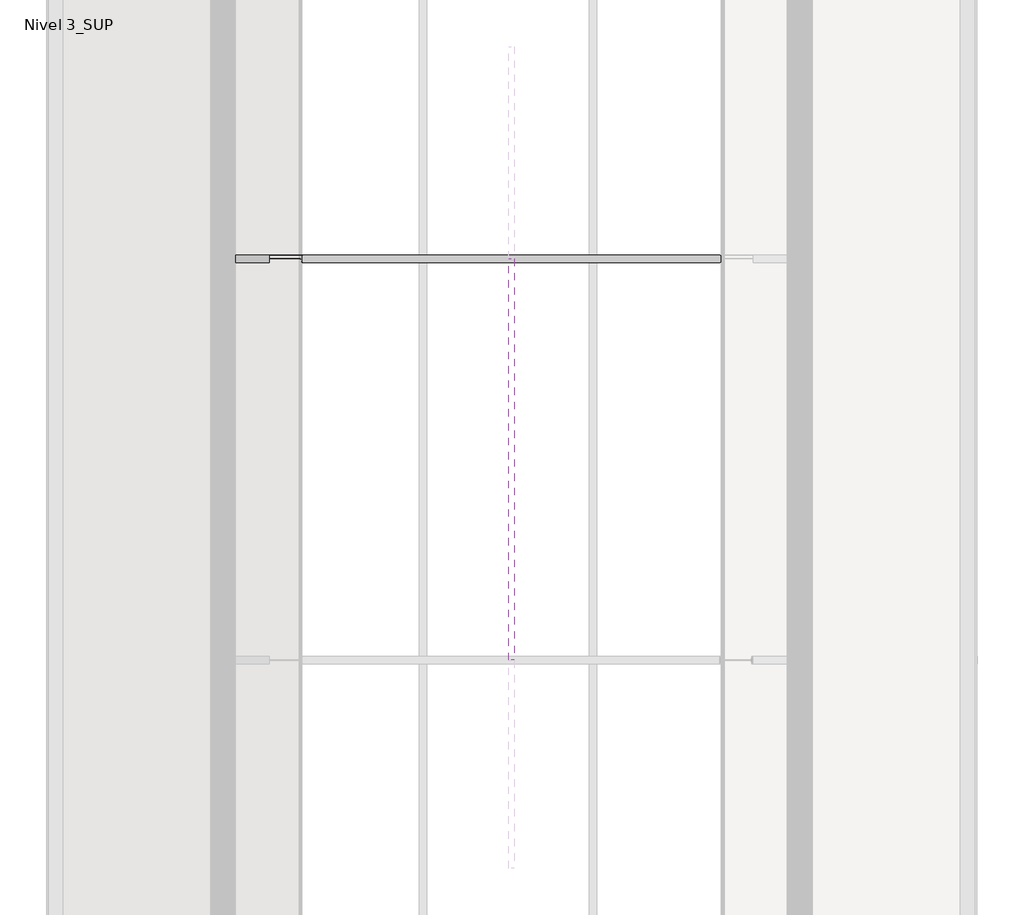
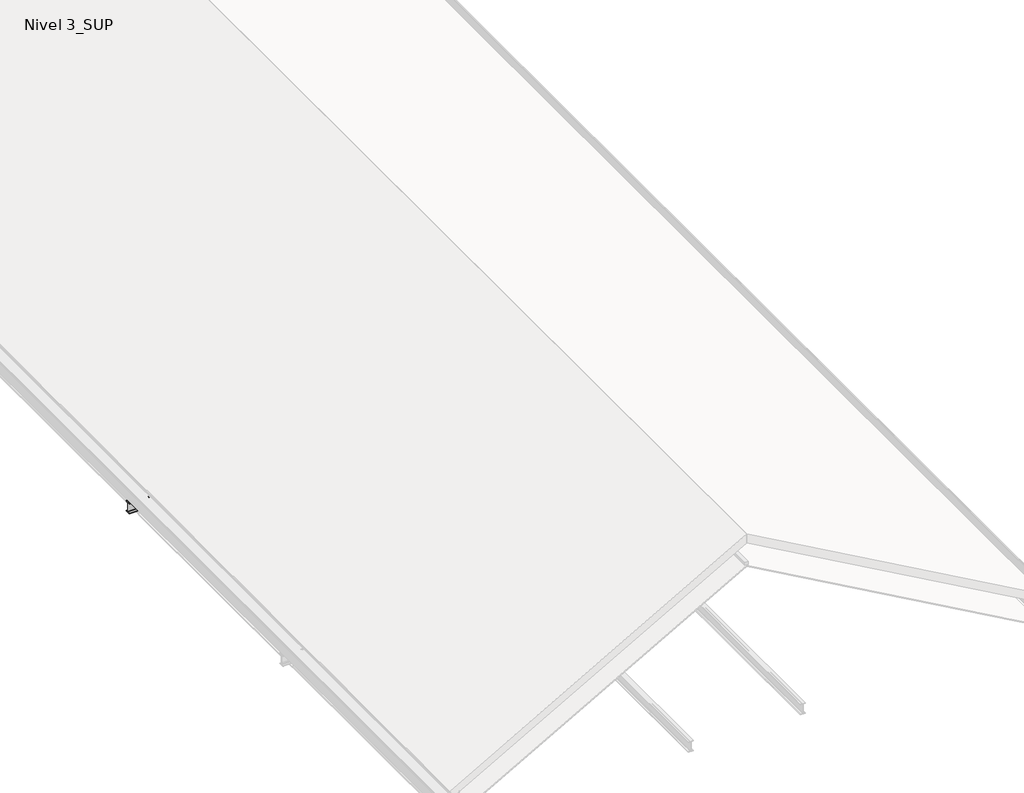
# One storey, part 4 of 10: 3 beams.
"""IFC4 building model written with IfcOpenShell, lengths in millimetres."""

from ifc_helpers import new_model, si_unit, point, frame, frame_2d, origin, place, context, project, spatial, polyline, circle_curve, ellipse_curve, trimmed, segment, composite_curve, outline, extrude, transform, mapped, element, save
from ifc_brep_helpers import plane_surface, cylinder_surface, revolved_surface, advanced_brep
from components import madera_50x50mm_9d4e22ec

model = new_model("IFC4")

# Units and contexts
model_context = context("Model", 3, world=origin())
ifc_project = project(units=[si_unit("LENGTHUNIT", "METRE", prefix="MILLI")], contexts=[model_context])

# Site, building, storey
site = spatial("IfcSite", under=ifc_project)
building = spatial("IfcBuilding", under=site)
storey = spatial("IfcBuildingStorey", under=building, Name="Nivel 3_SUP", Elevation=13230.0)

# Beams
placement = place(None, origin())
element("IfcBeam", 1, ObjectType="IPN - Secciones en I con alas cónicas : IPN 160", at=placement, inside=storey, context=model_context, shape_type="SweptSolid", body=[
    extrude(outline(composite_curve([segment(polyline([(2026.6072273, 13390.0), (2026.6072273, 13386.3950593)]), True, "CONTINUOUS"), segment(trimmed(circle_curve(frame_2d((2022.8072273, 13386.3950593)), 3.8), [point((2026.6072273, 13386.3950593))], [point((2023.3340891, 13382.6317607))], False, "CARTESIAN"), True, "CONTINUOUS"), segment(polyline([(2023.3340891, 13382.6317607), (1998.1837459, 13379.1107126)]), True, "CONTINUOUS"), segment(trimmed(circle_curve(frame_2d((1999.0572273, 13372.8715596)), 6.3), [point((1998.1837459, 13379.1107126))], [point((1992.7572273, 13372.8715596))], True, "CARTESIAN"), True, "CONTINUOUS"), segment(polyline([(1992.7572273, 13372.8715596), (1992.7572273, 13247.1284404)]), True, "CONTINUOUS"), segment(trimmed(circle_curve(frame_2d((1999.0572273, 13247.1284404)), 6.3), [point((1992.7572273, 13247.1284404))], [point((1998.1837459, 13240.8892874))], True, "CARTESIAN"), True, "CONTINUOUS"), segment(polyline([(1998.1837459, 13240.8892874), (2023.3340891, 13237.3682393)]), True, "CONTINUOUS"), segment(trimmed(circle_curve(frame_2d((2022.8072273, 13233.6049407)), 3.8), [point((2023.3340891, 13237.3682393))], [point((2026.6072273, 13233.6049407))], False, "CARTESIAN"), True, "CONTINUOUS"), segment(polyline([(2026.6072273, 13233.6049407), (2026.6072273, 13230.0), (1952.6072273, 13230.0), (1952.6072273, 13233.6049407)]), True, "CONTINUOUS"), segment(trimmed(circle_curve(frame_2d((1956.4072273, 13233.6049407)), 3.8), [point((1952.6072273, 13233.6049407))], [point((1955.8803655, 13237.3682393))], False, "CARTESIAN"), True, "CONTINUOUS"), segment(polyline([(1955.8803655, 13237.3682393), (1981.0307088, 13240.8892874)]), True, "CONTINUOUS"), segment(trimmed(circle_curve(frame_2d((1980.1572273, 13247.1284404)), 6.3), [point((1981.0307088, 13240.8892874))], [point((1986.4572273, 13247.1284404))], True, "CARTESIAN"), True, "CONTINUOUS"), segment(polyline([(1986.4572273, 13247.1284404), (1986.4572273, 13372.8715596)]), True, "CONTINUOUS"), segment(trimmed(circle_curve(frame_2d((1980.1572273, 13372.8715596)), 6.3), [point((1986.4572273, 13372.8715596))], [point((1981.0307088, 13379.1107126))], True, "CARTESIAN"), True, "CONTINUOUS"), segment(polyline([(1981.0307088, 13379.1107126), (1955.8803655, 13382.6317607)]), True, "CONTINUOUS"), segment(trimmed(circle_curve(frame_2d((1956.4072273, 13386.3950593)), 3.8), [point((1955.8803655, 13382.6317607))], [point((1952.6072273, 13386.3950593))], False, "CARTESIAN"), True, "CONTINUOUS"), segment(polyline([(1952.6072273, 13386.3950593), (1952.6072273, 13390.0), (2026.6072273, 13390.0)]), True, "CONTINUOUS")], self_intersect=False)), frame((6033.4837907, 0.0, 0.0), z_axis=(1.0, 0.0, 0.0), x_axis=(0.0, 1.0, 0.0)), (0.0, 0.0, 1.0), 8899.073732),
])
element("IfcBeam", 2, ObjectType="IPN - Secciones en I con alas cónicas : IPN 160", at=placement, inside=storey, context=model_context, shape_type="AdvancedBrep", body=[
    advanced_brep(
    [(6390.9153459, 1952.6072273, 13240.5610738), (6389.1422546, 1952.6072273, 13243.6998227), (6387.2912749, 1955.8803655, 13246.9764506), (6385.5594462, 1981.0307088, 13250.0421559), (6382.4907166, 1986.4572273, 13255.4744601), (6387.2054153, 1986.4572273, 13247.1284404), (6390.7299368, 1981.0307088, 13240.8892874), (6390.9153459, 1978.6863257, 13240.5610738), (6649.0725288, 1952.6072273, 13386.3950593), (6641.7431841, 1952.6072273, 13386.3950593), (6627.4300365, 1955.8803655, 13382.6317607), (6614.038253, 1981.0307088, 13379.1107126), (6590.3085608, 1986.4572273, 13372.8715596), (6391.4963539, 1981.0307088, 13240.8892874), (6402.5409822, 1986.4572273, 13247.1284404), (6625.133057, 1986.4572273, 13372.8715596), (6636.1776853, 1981.0307088, 13379.1107126), (6642.4106895, 1955.8803655, 13382.6317607)],
    [
        (0, 1),
        (1, 2, circle_curve(frame((6389.1422546, 1956.4072273, 13243.6998227), z_axis=(-0.8706797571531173, 0.0, -0.49185034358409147), x_axis=(0.0, 1.0, 0.0)), 3.8)),
        (2, 3),
        (3, 4, circle_curve(frame((6382.4907166, 1980.1572273, 13255.4744601), z_axis=(0.8706797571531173, 0.0, 0.49185034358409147), x_axis=(0.0, 1.0, 0.0)), 6.3)),
        (4, 5),
        (5, 6, ellipse_curve(frame((6387.2054153, 1980.1572273, 13247.1284404), z_axis=(-0.8706797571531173, 0.0, -0.49185034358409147), x_axis=(0.49185034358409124, 0.0, -0.8706797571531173)), 7.2357258, 6.3)),
        (6, 7),
        (7, 0),
        (0, 8),
        (8, 9),
        (9, 1),
        (2, 10),
        (10, 11),
        (11, 3),
        (11, 12, ellipse_curve(frame((6590.3085608, 1980.1572273, 13372.8715596), z_axis=(-0.25428354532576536, 0.0, 0.9671297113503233), x_axis=(0.9671297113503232, 0.0, 0.2542835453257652)), 24.7754922, 6.3)),
        (12, 4),
        (7, 13),
        (13, 14, ellipse_curve(frame((6402.5409822, 1980.1572273, 13247.1284404), z_axis=(0.49185034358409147, 0.0, -0.8706797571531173), x_axis=(0.8706797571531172, 0.0, 0.4918503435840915)), 12.8087742, 6.3)),
        (14, 15),
        (15, 16, ellipse_curve(frame((6625.133057, 1980.1572273, 13372.8715596), z_axis=(0.49185034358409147, 0.0, -0.8706797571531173), x_axis=(0.8706797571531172, 0.0, 0.4918503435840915)), 12.8087742, 6.3)),
        (16, 17),
        (17, 8, ellipse_curve(frame((6649.0725288, 1956.4072273, 13386.3950593), z_axis=(-0.49185034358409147, 0.0, 0.8706797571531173), x_axis=(-0.8706797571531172, 0.0, -0.4918503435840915)), 7.7259273, 3.8)),
        (9, 10, ellipse_curve(frame((6641.7431841, 1956.4072273, 13386.3950593), z_axis=(0.25428354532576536, 0.0, -0.9671297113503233), x_axis=(-0.9671297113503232, 0.0, -0.2542835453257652)), 14.9439477, 3.8)),
        (6, 13),
        (5, 14),
        (17, 10),
        (12, 15),
        (11, 16),
    ],
    [
        plane_surface(frame((6351.5673184, 1989.6072273, 13310.2154543), z_axis=(-0.8706797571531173, 0.0, -0.49185034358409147), x_axis=(-0.49185034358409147, 0.0, 0.8706797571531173))),
        plane_surface(frame((6390.9153459, 1952.6072273, 13240.5610738), z_axis=(0.0, -1.0, 0.0), x_axis=(0.8706797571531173, 0.0, 0.49185034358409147))),
        plane_surface(frame((6386.2427677, 1971.1072273, 13248.8325315), z_axis=(-0.48709992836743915, -0.13864784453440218, 0.862270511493), x_axis=(0.8706797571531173, 0.0, 0.49185034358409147))),
        revolved_surface(polyline([(6611.171018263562, 1986.4572272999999, 13384.656842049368), (6382.4907166, 1986.4572272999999, 13255.4744601)]), (6382.4907166, 1980.1572273, 13255.4744601), (0.8706797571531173, 0.0, 0.49185034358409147)),
        plane_surface(frame((6390.9153459, 2026.6072273, 13240.5610738), z_axis=(0.49185034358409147, 0.0, -0.8706797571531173), x_axis=(0.8706797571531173, 0.0, 0.49185034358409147))),
        cylinder_surface(frame((6389.1422546, 1956.4072273, 13243.6998227), z_axis=(-0.8706797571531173, 0.0, -0.49185034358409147), x_axis=(0.0, 1.0, 0.0)), 3.8),
        plane_surface(frame((6033.4837907, 1955.8803655, 13237.3682393), z_axis=(0.0, 0.13864784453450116, -0.9903417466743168), x_axis=(1.0, 0.0, 0.0))),
        cylinder_surface(frame((10483.0206567, 1980.1572273, 13247.1284404), z_axis=(1.0, 0.0, 0.0), x_axis=(0.0, 1.0, 0.0)), 6.3),
        revolved_surface(polyline([(6627.290448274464, 1960.2072272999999, 13386.3950593), (6656.195919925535, 1960.2072272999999, 13386.3950593)]), (10483.0206567, 1956.4072273, 13386.3950593), (-1.0, 0.0, 0.0)),
        plane_surface(frame((6033.4837907, 1986.4572273, 13247.1284404), z_axis=(0.0, 1.0, 0.0), x_axis=(1.0, 0.0, 0.0))),
        cylinder_surface(frame((10483.0206567, 1980.1572273, 13372.8715596), z_axis=(1.0, 0.0, 0.0), x_axis=(0.0, 1.0, 0.0)), 6.3),
        plane_surface(frame((6033.4837907, 1981.0307088, 13379.1107126), z_axis=(0.0, 0.13864784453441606, 0.9903417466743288), x_axis=(1.0, 0.0, 0.0))),
    ],
    [
        (0, [[1, 2, 3, 4, 5, 6, 7, 8]]),
        (1, [[-1, 9, 10, 11]]),
        (2, [[-3, 12, 13, 14]]),
        (3, [[-4, -14, 15, 16]]),
        (4, [[-8, 17, 18, 19, 20, 21, 22, -9]]),
        (5, [[-2, -11, 23, -12]]),
        (6, [[24, -17, -7]]),
        (7, [[-24, -6, 25, -18]]),
        (8, [[26, -23, -10, -22]]),
        (9, [[-25, -5, -16, 27, -19]]),
        (10, [[-27, -15, 28, -20]]),
        (11, [[-28, -13, -26, -21]]),
    ],
),
    advanced_brep(
    [(6313.9923823, 2026.6072273, 13376.731086), (6312.2192909, 2026.6072273, 13379.8698349), (6323.7703264, 2026.6072273, 13386.3950593), (6331.0996711, 2026.6072273, 13386.3950593), (6317.5751907, 1998.1837459, 13370.3887528), (6315.843362, 2023.3340891, 13373.4544581), (6332.0891402, 2023.3340891, 13382.6317607), (6333.0149153, 1998.1837459, 13379.1107126), (6320.6439202, 1992.7572273, 13364.9564486), (6334.6553508, 1992.7572273, 13372.8715596), (6316.1726436, 1992.7572273, 13372.8715596), (6312.6481221, 1998.1837459, 13379.1107126), (6312.2192909, 2003.6060482, 13379.8698349), (6317.1084871, 2023.3340891, 13382.6317607)],
    [
        (0, 1),
        (1, 2),
        (2, 3),
        (3, 0),
        (4, 5),
        (5, 6),
        (6, 7),
        (7, 4),
        (8, 4, circle_curve(frame((6320.6439202, 1999.0572273, 13364.9564486), z_axis=(-0.8706797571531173, 0.0, -0.49185034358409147), x_axis=(0.0, 1.0, 0.0)), 6.3)),
        (7, 9, ellipse_curve(frame((6334.6553508, 1999.0572273, 13372.8715596), z_axis=(0.9671297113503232, 0.0, 0.25428354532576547), x_axis=(-0.2542835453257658, 0.0, 0.9671297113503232)), 6.514121, 6.3)),
        (9, 8),
        (0, 5, circle_curve(frame((6313.9923823, 2022.8072273, 13376.731086), z_axis=(-0.8706797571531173, 0.0, -0.49185034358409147), x_axis=(0.0, 1.0, 0.0)), 3.8)),
        (8, 10),
        (10, 11, ellipse_curve(frame((6316.1726436, 1999.0572273, 13372.8715596), z_axis=(-0.8706797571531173, 0.0, -0.49185034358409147), x_axis=(0.49185034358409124, 0.0, -0.8706797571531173)), 7.2357258, 6.3)),
        (11, 12),
        (12, 1),
        (12, 13),
        (13, 2, ellipse_curve(frame((6323.7703264, 2022.8072273, 13386.3950593), z_axis=(0.49185034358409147, 0.0, -0.8706797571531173), x_axis=(-0.8706797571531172, 0.0, -0.4918503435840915)), 7.7259273, 3.8)),
        (3, 6, ellipse_curve(frame((6331.0996711, 2022.8072273, 13386.3950593), z_axis=(-0.9671297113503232, 0.0, -0.25428354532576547), x_axis=(0.2542835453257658, 0.0, -0.9671297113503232)), 3.9291524, 3.8)),
        (6, 13),
        (11, 7),
        (10, 9),
    ],
    [
        plane_surface(frame((6312.2192909, 2026.6072273, 13379.8698349), z_axis=(0.0, 1.0, 0.0), x_axis=(0.8706797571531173, 0.0, 0.49185034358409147))),
        plane_surface(frame((6316.8918692, 2008.1072273, 13371.5983772), z_axis=(0.4870999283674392, 0.1386478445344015, -0.8622705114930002), x_axis=(0.8706797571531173, 0.0, 0.49185034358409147))),
        revolved_surface(polyline([(6336.097574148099, 2005.3572273, 13373.686277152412), (6320.6439202, 2005.3572273, 13364.9564486)]), (6320.6439202, 1999.0572273, 13364.9564486), (0.8706797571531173, 0.0, 0.49185034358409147)),
        plane_surface(frame((6351.5673184, 1989.6072273, 13310.2154543), z_axis=(-0.8706797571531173, 0.0, -0.49185034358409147), x_axis=(-0.49185034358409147, 0.0, 0.8706797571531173))),
        plane_surface(frame((6312.2192909, 1952.6072273, 13379.8698349), z_axis=(-0.49185034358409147, 0.0, 0.8706797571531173), x_axis=(0.8706797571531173, 0.0, 0.49185034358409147))),
        cylinder_surface(frame((6313.9923823, 2022.8072273, 13376.731086), z_axis=(-0.8706797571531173, 0.0, -0.49185034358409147), x_axis=(0.0, 1.0, 0.0)), 3.8),
        plane_surface(frame((6033.4837907, 2023.3340891, 13382.6317607), z_axis=(0.0, -0.13864784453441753, 0.9903417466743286), x_axis=(1.0, 0.0, 0.0))),
        cylinder_surface(frame((10483.0206567, 1999.0572273, 13372.8715596), z_axis=(1.0, 0.0, 0.0), x_axis=(0.0, 1.0, 0.0)), 6.3),
        plane_surface(frame((6033.4837907, 1992.7572273, 13372.8715596), z_axis=(0.0, -1.0, 0.0), x_axis=(1.0, 0.0, 0.0))),
        revolved_surface(polyline([(6317.043517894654, 2026.6072273, 13386.3950593), (6332.098789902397, 2026.6072273, 13386.3950593)]), (10483.0206567, 2022.8072273, 13386.3950593), (-1.0, 0.0, 0.0)),
    ],
    [
        (0, [[1, 2, 3, 4]]),
        (1, [[5, 6, 7, 8]]),
        (2, [[9, -8, 10, 11]]),
        (3, [[-1, 12, -5, -9, 13, 14, 15, 16]]),
        (4, [[-16, 17, 18, -2]]),
        (5, [[-12, -4, 19, -6]]),
        (6, [[20, -17, -15, 21, -7]]),
        (7, [[-21, -14, 22, -10]]),
        (8, [[-22, -13, -11]]),
        (9, [[-20, -19, -3, -18]]),
    ],
),
    advanced_brep(
    [(10493.4837907, 2026.6072273, 15737.7418576), (10493.4837907, 2023.3340891, 15733.4196041), (10420.8520301, 2023.3340891, 15692.3896432), (10417.0887314, 2026.6072273, 15694.5859948), (10493.4837907, 1955.8803655, 15733.4196041), (10493.4837907, 1952.6072273, 15737.7418576), (10417.0887314, 1952.6072273, 15694.5859948), (10420.8520301, 1955.8803655, 15692.3896432), (10493.4837907, 2026.6072273, 15741.8822326), (10493.4837907, 1952.6072273, 15741.8822326), (10493.4837907, 1981.0307088, 15729.3755822), (10493.4837907, 1986.4572273, 15722.2097408), (10493.4837907, 1986.4572273, 15698.0), (10493.4837907, 1992.7572273, 15698.0), (10493.4837907, 1992.7572273, 15722.2097408), (10493.4837907, 1998.1837459, 15729.3755822), (10424.3730781, 1998.1837459, 15698.0), (10430.6122311, 1992.7572273, 15698.0), (10450.6273985, 1992.7572273, 15698.0), (10450.6273985, 1986.4572273, 15698.0), (10430.6122311, 1986.4572273, 15698.0), (10424.3730781, 1981.0307088, 15698.0), (10420.8520301, 1955.8803655, 15698.0), (10417.0887314, 1952.6072273, 15698.0), (10415.8029023, 1952.6072273, 15698.0), (10415.8029023, 2026.6072273, 15698.0), (10417.0887314, 2026.6072273, 15698.0), (10420.8520301, 2023.3340891, 15698.0), (10424.3730781, 1998.1837459, 15690.3346748), (10430.6122311, 1992.7572273, 15686.693355), (10424.3730781, 1981.0307088, 15690.3346748), (10430.6122311, 1986.4572273, 15686.693355)],
    [
        (0, 1, ellipse_curve(frame((10493.4837907, 2022.8072273, 15737.7418576), z_axis=(-1.0, 0.0, 0.0), x_axis=(0.0, 0.0, -1.0)), 4.3644061, 3.8)),
        (1, 2),
        (2, 3, ellipse_curve(frame((10417.0887314, 2022.8072273, 15694.5859948), z_axis=(0.504058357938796, 0.0, 0.8636695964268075), x_axis=(-0.8636695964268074, 0.0, 0.5040583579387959)), 4.3998307, 3.8)),
        (3, 0),
        (4, 5, ellipse_curve(frame((10493.4837907, 1956.4072273, 15737.7418576), z_axis=(-1.0, 0.0, 0.0), x_axis=(0.0, 0.0, -1.0)), 4.3644061, 3.8)),
        (5, 6),
        (6, 7, ellipse_curve(frame((10417.0887314, 1956.4072273, 15694.5859948), z_axis=(0.504058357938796, 0.0, 0.8636695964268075), x_axis=(-0.8636695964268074, 0.0, 0.5040583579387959)), 4.3998307, 3.8)),
        (7, 4),
        (8, 9),
        (9, 5),
        (4, 10),
        (10, 11, ellipse_curve(frame((10493.4837907, 1980.1572273, 15722.2097408), z_axis=(-1.0, 0.0, 0.0), x_axis=(0.0, 0.0, 1.0)), 7.2357258, 6.3)),
        (11, 12),
        (12, 13),
        (13, 14),
        (14, 15, ellipse_curve(frame((10493.4837907, 1999.0572273, 15722.2097408), z_axis=(-1.0, 0.0, 0.0), x_axis=(0.0, 0.0, 1.0)), 7.2357258, 6.3)),
        (15, 1),
        (0, 8),
        (16, 17, circle_curve(frame((10430.6122311, 1999.0572273, 15698.0), z_axis=(0.0, 0.0, 1.0), x_axis=(0.0, -1.0, 0.0)), 6.3)),
        (17, 18),
        (18, 13),
        (12, 19),
        (19, 20),
        (20, 21, circle_curve(frame((10430.6122311, 1980.1572273, 15698.0), z_axis=(0.0, 0.0, 1.0), x_axis=(0.0, -1.0, 0.0)), 6.3)),
        (21, 22),
        (22, 23, circle_curve(frame((10417.0887314, 1956.4072273, 15698.0), z_axis=(0.0, 0.0, -1.0), x_axis=(0.0, -1.0, 0.0)), 3.8)),
        (23, 24),
        (24, 25),
        (25, 26),
        (26, 27, circle_curve(frame((10417.0887314, 2022.8072273, 15698.0), z_axis=(0.0, 0.0, -1.0), x_axis=(0.0, -1.0, 0.0)), 3.8)),
        (27, 16),
        (26, 3),
        (2, 27),
        (25, 8),
        (15, 28),
        (28, 2),
        (14, 18),
        (18, 29),
        (29, 28, ellipse_curve(frame((10430.6122311, 1999.0572273, 15686.693355), z_axis=(-0.504058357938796, 0.0, -0.8636695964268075), x_axis=(0.8636695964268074, 0.0, -0.5040583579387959)), 7.2944562, 6.3)),
        (11, 19),
        (10, 30),
        (30, 31, ellipse_curve(frame((10430.6122311, 1980.1572273, 15686.693355), z_axis=(-0.504058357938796, 0.0, -0.8636695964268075), x_axis=(0.8636695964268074, 0.0, -0.5040583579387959)), 7.2944562, 6.3)),
        (31, 19),
        (7, 30),
        (9, 24),
        (23, 6),
        (31, 20),
        (30, 21),
        (7, 22),
        (28, 16),
        (29, 17),
    ],
    [
        cylinder_surface(frame((6313.9923823, 2022.8072273, 13376.731086), z_axis=(-0.8706797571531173, 0.0, -0.49185034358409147), x_axis=(0.0, 1.0, 0.0)), 3.8),
        cylinder_surface(frame((6313.9923823, 1956.4072273, 13376.731086), z_axis=(-0.8706797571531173, 0.0, -0.49185034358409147), x_axis=(0.0, 1.0, 0.0)), 3.8),
        plane_surface(frame((10493.4837907, 1989.6072273, 15741.8822326), z_axis=(1.0, 0.0, 0.0), x_axis=(0.0, -1.0, 0.0))),
        plane_surface(frame((10493.4837907, 1989.6072273, 15698.0), z_axis=(0.0, 0.0, -1.0), x_axis=(0.0, -1.0, 0.0))),
        revolved_surface(polyline([(10417.0887314, 2019.0072273, 15692.36822336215), (10417.0887314, 2019.0072273, 15698.0)]), (10417.0887314, 2022.8072273, 14544.0), (0.0, 0.0, -1.0)),
        plane_surface(frame((6312.2192909, 2026.6072273, 13379.8698349), z_axis=(0.0, 1.0, 0.0), x_axis=(0.8706797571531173, 0.0, 0.49185034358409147))),
        plane_surface(frame((6316.8918692, 2008.1072273, 13371.5983772), z_axis=(0.4870999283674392, 0.1386478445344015, -0.8622705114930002), x_axis=(0.8706797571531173, 0.0, 0.49185034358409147))),
        revolved_surface(polyline([(10496.582447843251, 2005.3572273, 15723.960184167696), (10427.410888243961, 2005.3572273, 15684.884904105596)]), (6320.6439202, 1999.0572273, 13364.9564486), (0.8706797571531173, 0.0, 0.49185034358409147)),
        plane_surface(frame((6320.6439202, 1992.7572273, 13364.9564486), z_axis=(0.0, 1.0, 0.0), x_axis=(0.8706797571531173, 0.0, 0.49185034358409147))),
        plane_surface(frame((6382.4907166, 1986.4572273, 13255.4744601), z_axis=(0.0, -1.0, 0.0), x_axis=(0.8706797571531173, 0.0, 0.49185034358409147))),
        revolved_surface(polyline([(10496.582447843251, 1986.4572272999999, 15723.960184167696), (10427.410888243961, 1986.4572272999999, 15684.884904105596)]), (6320.6439202, 1980.1572273, 13364.9564486), (0.8706797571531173, 0.0, 0.49185034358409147)),
        plane_surface(frame((6316.8918692, 1971.1072273, 13371.5983772), z_axis=(0.48709992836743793, -0.13864784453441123, -0.8622705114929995), x_axis=(0.8706797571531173, 0.0, 0.49185034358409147))),
        plane_surface(frame((6313.9923823, 1952.6072273, 13376.731086), z_axis=(0.0, -1.0, 0.0), x_axis=(0.8706797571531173, 0.0, 0.49185034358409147))),
        plane_surface(frame((6312.2192909, 1952.6072273, 13379.8698349), z_axis=(-0.49185034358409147, 0.0, 0.8706797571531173), x_axis=(0.8706797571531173, 0.0, 0.49185034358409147))),
        plane_surface(frame((10556.3553503, 1986.4572273, 13390.0), z_axis=(0.0, 1.0, 0.0), x_axis=(0.0, 0.0, 1.0))),
        cylinder_surface(frame((10430.6122311, 1980.1572273, 14544.0), z_axis=(0.0, 0.0, 1.0), x_axis=(0.0, -1.0, 0.0)), 6.3),
        plane_surface(frame((10424.3730781, 1981.0307088, 13390.0), z_axis=(-0.9903417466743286, 0.13864784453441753, 0.0), x_axis=(0.0, 0.0, 1.0))),
        revolved_surface(polyline([(10417.0887314, 1952.6072273, 15692.36822336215), (10417.0887314, 1952.6072273, 15698.0)]), (10417.0887314, 1956.4072273, 14544.0), (0.0, 0.0, -1.0)),
        plane_surface(frame((10420.8520301, 2023.3340891, 13390.0), z_axis=(-0.9903417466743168, -0.13864784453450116, 0.0), x_axis=(0.0, 0.0, 1.0))),
        cylinder_surface(frame((10430.6122311, 1999.0572273, 14544.0), z_axis=(0.0, 0.0, 1.0), x_axis=(0.0, -1.0, 0.0)), 6.3),
        plane_surface(frame((10430.6122311, 1992.7572273, 13390.0), z_axis=(0.0, -1.0, 0.0), x_axis=(0.0, 0.0, 1.0))),
    ],
    [
        (0, [[1, 2, 3, 4]]),
        (1, [[5, 6, 7, 8]]),
        (2, [[9, 10, -5, 11, 12, 13, 14, 15, 16, 17, -1, 18]]),
        (3, [[19, 20, 21, -14, 22, 23, 24, 25, 26, 27, 28, 29, 30, 31]]),
        (4, [[-30, 32, -3, 33]]),
        (5, [[-18, -4, -32, -29, 34]]),
        (6, [[-17, 35, 36, -2]]),
        (7, [[-16, 37, 38, 39, -35]]),
        (8, [[-37, -15, -21]]),
        (9, [[-13, 40, -22]]),
        (10, [[-12, 41, 42, 43, -40]]),
        (11, [[-11, -8, 44, -41]]),
        (12, [[-10, 45, -27, 46, -6]]),
        (13, [[-9, -34, -28, -45]]),
        (14, [[-23, -43, 47]]),
        (15, [[-24, -47, -42, 48]]),
        (16, [[-25, -48, -44, 49]]),
        (17, [[-26, -49, -7, -46]]),
        (18, [[-31, -33, -36, 50]]),
        (19, [[-19, -50, -39, 51]]),
        (20, [[-20, -51, -38]]),
    ],
),
    advanced_brep(
    [(10413.4837907, 1992.7572273, 15677.0174331), (10413.4837907, 1992.7572273, 15532.5979515), (6620.6295447, 1992.7572273, 13390.0), (6364.9763347, 1992.7572273, 13390.0), (10413.4837907, 1986.4572273, 15532.5979515), (10413.4837907, 1986.4572273, 15677.0174331), (6364.9763347, 1986.4572273, 13390.0), (6620.6295447, 1986.4572273, 13390.0), (10413.4837907, 2023.3340891, 15521.3880882), (10413.4837907, 2026.6072273, 15517.0658347), (6648.1246962, 2026.6072273, 13390.0), (6640.4733878, 2023.3340891, 13390.0), (10413.4837907, 1952.6072273, 15517.0658347), (10413.4837907, 1955.8803655, 15521.3880882), (6640.4733878, 1955.8803655, 13390.0), (6648.1246962, 1952.6072273, 13390.0), (10413.4837907, 2026.6072273, 15696.6899249), (10413.4837907, 2026.6072273, 15692.5495499), (6337.4811832, 2026.6072273, 13390.0), (6330.1518385, 2026.6072273, 13390.0), (10413.4837907, 2023.3340891, 15688.2272964), (10413.4837907, 1998.1837459, 15684.1832745), (6352.2912708, 1998.1837459, 13390.0), (6345.1324915, 2023.3340891, 13390.0), (10413.4837907, 1998.1837459, 15525.4321101), (6633.3146085, 1998.1837459, 13390.0), (10413.4837907, 2026.6072273, 15512.9254597), (6655.4540409, 2026.6072273, 13390.0), (10413.4837907, 1952.6072273, 15512.9254597), (6655.4540409, 1952.6072273, 13390.0), (10413.4837907, 1981.0307088, 15525.4321101), (6633.3146085, 1981.0307088, 13390.0), (10413.4837907, 1981.0307088, 15684.1832745), (6352.2912708, 1981.0307088, 13390.0), (10413.4837907, 1955.8803655, 15688.2272964), (6345.1324915, 1955.8803655, 13390.0), (10413.4837907, 1952.6072273, 15692.5495499), (10413.4837907, 1952.6072273, 15696.6899249), (6330.1518385, 1952.6072273, 13390.0), (6337.4811832, 1952.6072273, 13390.0)],
    [
        (0, 1),
        (1, 2),
        (2, 3),
        (3, 0),
        (4, 5),
        (5, 6),
        (6, 7),
        (7, 4),
        (8, 9, ellipse_curve(frame((10413.4837907, 2022.8072273, 15517.0658347), z_axis=(-1.0, 0.0, 0.0), x_axis=(0.0, 0.0, -0.9999999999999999)), 4.3644061, 3.8)),
        (9, 10),
        (10, 11, ellipse_curve(frame((6648.1246962, 2022.8072273, 13390.0), z_axis=(0.0, 0.0, 1.0), x_axis=(-1.0, 0.0, 0.0)), 7.7259273, 3.8)),
        (11, 8),
        (12, 13, ellipse_curve(frame((10413.4837907, 1956.4072273, 15517.0658347), z_axis=(-1.0, 0.0, 0.0), x_axis=(0.0, 0.0, -0.9999999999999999)), 4.3644061, 3.8)),
        (13, 14),
        (14, 15, ellipse_curve(frame((6648.1246962, 1956.4072273, 13390.0), z_axis=(0.0, 0.0, 1.0), x_axis=(-1.0, 0.0, 0.0)), 7.7259273, 3.8)),
        (15, 12),
        (16, 17),
        (17, 18),
        (18, 19),
        (19, 16),
        (20, 21),
        (21, 22),
        (22, 23),
        (23, 20),
        (21, 0, ellipse_curve(frame((10413.4837907, 1999.0572273, 15677.0174331), z_axis=(1.0, 0.0, 0.0), x_axis=(0.0, 0.0, 0.9999999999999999)), 7.2357258, 6.3)),
        (3, 22, ellipse_curve(frame((6364.9763347, 1999.0572273, 13390.0), z_axis=(0.0, 0.0, -1.0), x_axis=(1.0, 0.0, 0.0)), 12.8087742, 6.3)),
        (1, 24, ellipse_curve(frame((10413.4837907, 1999.0572273, 15532.5979515), z_axis=(1.0, 0.0, 0.0), x_axis=(0.0, 0.0, 0.9999999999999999)), 7.2357258, 6.3)),
        (24, 25),
        (25, 2, ellipse_curve(frame((6620.6295447, 1999.0572273, 13390.0), z_axis=(0.0, 0.0, -1.0), x_axis=(1.0, 0.0, 0.0)), 12.8087742, 6.3)),
        (24, 8),
        (11, 25),
        (9, 26),
        (26, 27),
        (27, 10),
        (26, 28),
        (28, 29),
        (29, 27),
        (28, 12),
        (15, 29),
        (13, 30),
        (30, 31),
        (31, 14),
        (30, 4, ellipse_curve(frame((10413.4837907, 1980.1572273, 15532.5979515), z_axis=(1.0, 0.0, 0.0), x_axis=(0.0, 0.0, 0.9999999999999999)), 7.2357258, 6.3)),
        (7, 31, ellipse_curve(frame((6620.6295447, 1980.1572273, 13390.0), z_axis=(0.0, 0.0, -1.0), x_axis=(1.0, 0.0, 0.0)), 12.8087742, 6.3)),
        (5, 32, ellipse_curve(frame((10413.4837907, 1980.1572273, 15677.0174331), z_axis=(1.0, 0.0, 0.0), x_axis=(0.0, 0.0, 0.9999999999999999)), 7.2357258, 6.3)),
        (32, 33),
        (33, 6, ellipse_curve(frame((6364.9763347, 1980.1572273, 13390.0), z_axis=(0.0, 0.0, -1.0), x_axis=(1.0, 0.0, 0.0)), 12.8087742, 6.3)),
        (32, 34),
        (34, 35),
        (35, 33),
        (36, 37),
        (37, 38),
        (38, 39),
        (39, 36),
        (37, 16),
        (19, 38),
        (36, 34, ellipse_curve(frame((10413.4837907, 1956.4072273, 15692.5495499), z_axis=(1.0, 0.0, 0.0), x_axis=(0.0, 0.0, -0.9999999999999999)), 4.3644061, 3.8)),
        (20, 17, ellipse_curve(frame((10413.4837907, 2022.8072273, 15692.5495499), z_axis=(1.0, 0.0, 0.0), x_axis=(0.0, 0.0, -0.9999999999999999)), 4.3644061, 3.8)),
        (18, 23, ellipse_curve(frame((6337.4811832, 2022.8072273, 13390.0), z_axis=(0.0, 0.0, -1.0), x_axis=(-1.0, 0.0, 0.0)), 7.7259273, 3.8)),
        (35, 39, ellipse_curve(frame((6337.4811832, 1956.4072273, 13390.0), z_axis=(0.0, 0.0, -1.0), x_axis=(-1.0, 0.0, 0.0)), 7.7259273, 3.8)),
    ],
    [
        plane_surface(frame((6320.6439202, 1992.7572273, 13364.9564486), z_axis=(0.0, 1.0, 0.0), x_axis=(0.8706797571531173, 0.0, 0.49185034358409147))),
        plane_surface(frame((6382.4907166, 1986.4572273, 13255.4744601), z_axis=(0.0, -1.0, 0.0), x_axis=(0.8706797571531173, 0.0, 0.49185034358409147))),
        cylinder_surface(frame((6389.1422546, 2022.8072273, 13243.6998227), z_axis=(-0.8706797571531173, 0.0, -0.49185034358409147), x_axis=(0.0, 1.0, 0.0)), 3.8),
        cylinder_surface(frame((6389.1422546, 1956.4072273, 13243.6998227), z_axis=(-0.8706797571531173, 0.0, -0.49185034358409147), x_axis=(0.0, 1.0, 0.0)), 3.8),
        plane_surface(frame((6312.2192909, 2026.6072273, 13379.8698349), z_axis=(0.0, 1.0, 0.0), x_axis=(0.8706797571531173, 0.0, 0.49185034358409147))),
        plane_surface(frame((6316.8918692, 2008.1072273, 13371.5983772), z_axis=(0.4870999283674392, 0.1386478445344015, -0.8622705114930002), x_axis=(0.8706797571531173, 0.0, 0.49185034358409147))),
        revolved_surface(polyline([(10416.582447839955, 2005.3572273, 15678.767876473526), (6355.266217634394, 2005.3572273, 13384.514717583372)]), (6320.6439202, 1999.0572273, 13364.9564486), (0.8706797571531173, 0.0, 0.49185034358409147)),
        revolved_surface(polyline([(10416.582447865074, 2005.3572273, 15534.348394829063), (6610.919427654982, 2005.3572273, 13384.514717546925)]), (6382.4907166, 1999.0572273, 13255.4744601), (0.8706797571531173, 0.0, 0.49185034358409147)),
        plane_surface(frame((6386.2427677, 2008.1072273, 13248.8325315), z_axis=(-0.48709992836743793, 0.1386478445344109, 0.8622705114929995), x_axis=(0.8706797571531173, 0.0, 0.49185034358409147))),
        plane_surface(frame((6389.1422546, 2026.6072273, 13243.6998227), z_axis=(0.0, 1.0, 0.0), x_axis=(0.8706797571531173, 0.0, 0.49185034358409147))),
        plane_surface(frame((6390.9153459, 2026.6072273, 13240.5610738), z_axis=(0.49185034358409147, 0.0, -0.8706797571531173), x_axis=(0.8706797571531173, 0.0, 0.49185034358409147))),
        plane_surface(frame((6390.9153459, 1952.6072273, 13240.5610738), z_axis=(0.0, -1.0, 0.0), x_axis=(0.8706797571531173, 0.0, 0.49185034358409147))),
        plane_surface(frame((6386.2427677, 1971.1072273, 13248.8325315), z_axis=(-0.48709992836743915, -0.13864784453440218, 0.862270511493), x_axis=(0.8706797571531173, 0.0, 0.49185034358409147))),
        revolved_surface(polyline([(10416.582447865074, 1986.4572272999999, 15534.348394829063), (6610.919427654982, 1986.4572272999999, 13384.514717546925)]), (6382.4907166, 1980.1572273, 13255.4744601), (0.8706797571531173, 0.0, 0.49185034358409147)),
        revolved_surface(polyline([(10416.582447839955, 1986.4572272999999, 15678.767876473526), (6355.266217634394, 1986.4572272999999, 13384.514717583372)]), (6320.6439202, 1980.1572273, 13364.9564486), (0.8706797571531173, 0.0, 0.49185034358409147)),
        plane_surface(frame((6316.8918692, 1971.1072273, 13371.5983772), z_axis=(0.48709992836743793, -0.13864784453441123, -0.8622705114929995), x_axis=(0.8706797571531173, 0.0, 0.49185034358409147))),
        plane_surface(frame((6313.9923823, 1952.6072273, 13376.731086), z_axis=(0.0, -1.0, 0.0), x_axis=(0.8706797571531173, 0.0, 0.49185034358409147))),
        plane_surface(frame((6312.2192909, 1952.6072273, 13379.8698349), z_axis=(-0.49185034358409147, 0.0, 0.8706797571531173), x_axis=(0.8706797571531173, 0.0, 0.49185034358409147))),
        plane_surface(frame((10413.4837907, 1952.6072273, 13390.0), z_axis=(1.0, 0.0, 0.0), x_axis=(0.0, 0.0, 1.0))),
        plane_surface(frame((6033.4837907, 1952.6072273, 13390.0), z_axis=(0.0, 0.0, -1.0), x_axis=(1.0, 0.0, 0.0))),
        cylinder_surface(frame((6313.9923823, 2022.8072273, 13376.731086), z_axis=(-0.8706797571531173, 0.0, -0.49185034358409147), x_axis=(0.0, 1.0, 0.0)), 3.8),
        cylinder_surface(frame((6313.9923823, 1956.4072273, 13376.731086), z_axis=(-0.8706797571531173, 0.0, -0.49185034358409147), x_axis=(0.0, 1.0, 0.0)), 3.8),
    ],
    [
        (0, [[1, 2, 3, 4]]),
        (1, [[5, 6, 7, 8]]),
        (2, [[9, 10, 11, 12]]),
        (3, [[13, 14, 15, 16]]),
        (4, [[17, 18, 19, 20]]),
        (5, [[21, 22, 23, 24]]),
        (6, [[25, -4, 26, -22]]),
        (7, [[27, 28, 29, -2]]),
        (8, [[30, -12, 31, -28]]),
        (9, [[32, 33, 34, -10]]),
        (10, [[35, 36, 37, -33]]),
        (11, [[38, -16, 39, -36]]),
        (12, [[40, 41, 42, -14]]),
        (13, [[43, -8, 44, -41]]),
        (14, [[45, 46, 47, -6]]),
        (15, [[48, 49, 50, -46]]),
        (16, [[51, 52, 53, 54]]),
        (17, [[55, -20, 56, -52]]),
        (18, [[-17, -55, -51, 57, -48, -45, -5, -43, -40, -13, -38, -35, -32, -9, -30, -27, -1, -25, -21, 58]]),
        (19, [[-19, 59, -23, -26, -3, -29, -31, -11, -34, -37, -39, -15, -42, -44, -7, -47, -50, 60, -53, -56]]),
        (20, [[-58, -24, -59, -18]]),
        (21, [[-57, -54, -60, -49]]),
    ],
),
    advanced_brep(
    [(6385.5594462, 1998.1837459, 13250.0421559), (6382.4907166, 1992.7572273, 13255.4744601), (6590.3085608, 1992.7572273, 13372.8715596), (6614.038253, 1998.1837459, 13379.1107126), (6387.2912749, 2023.3340891, 13246.9764506), (6627.4300365, 2023.3340891, 13382.6317607), (6390.9153459, 2026.6072273, 13240.5610738), (6389.1422546, 2026.6072273, 13243.6998227), (6641.7431841, 2026.6072273, 13386.3950593), (6649.0725288, 2026.6072273, 13386.3950593), (6390.9153459, 2000.5281289, 13240.5610738), (6642.4106895, 2023.3340891, 13382.6317607), (6636.1776853, 1998.1837459, 13379.1107126), (6625.133057, 1992.7572273, 13372.8715596), (6402.5409822, 1992.7572273, 13247.1284404), (6391.4963539, 1998.1837459, 13240.8892874), (6390.7299368, 1998.1837459, 13240.8892874), (6387.2054153, 1992.7572273, 13247.1284404)],
    [
        (0, 1, circle_curve(frame((6382.4907166, 1999.0572273, 13255.4744601), z_axis=(-0.8706797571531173, 0.0, -0.49185034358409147), x_axis=(0.0, 1.0, 0.0)), 6.3)),
        (1, 2),
        (2, 3, ellipse_curve(frame((6590.3085608, 1999.0572273, 13372.8715596), z_axis=(-0.25428354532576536, 0.0, 0.9671297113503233), x_axis=(0.9671297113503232, 0.0, 0.2542835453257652)), 24.7754922, 6.3)),
        (3, 0),
        (4, 0),
        (3, 5),
        (5, 4),
        (6, 7),
        (7, 8),
        (8, 9),
        (9, 6),
        (10, 6),
        (9, 11, ellipse_curve(frame((6649.0725288, 2022.8072273, 13386.3950593), z_axis=(-0.49185034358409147, 0.0, 0.8706797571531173), x_axis=(-0.8706797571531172, 0.0, -0.4918503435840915)), 7.7259273, 3.8)),
        (11, 12),
        (12, 13, ellipse_curve(frame((6625.133057, 1999.0572273, 13372.8715596), z_axis=(0.49185034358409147, 0.0, -0.8706797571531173), x_axis=(0.8706797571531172, 0.0, 0.4918503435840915)), 12.8087742, 6.3)),
        (13, 14),
        (14, 15, ellipse_curve(frame((6402.5409822, 1999.0572273, 13247.1284404), z_axis=(0.49185034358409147, 0.0, -0.8706797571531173), x_axis=(0.8706797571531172, 0.0, 0.4918503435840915)), 12.8087742, 6.3)),
        (15, 10),
        (4, 7, circle_curve(frame((6389.1422546, 2022.8072273, 13243.6998227), z_axis=(-0.8706797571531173, 0.0, -0.49185034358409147), x_axis=(0.0, 1.0, 0.0)), 3.8)),
        (10, 16),
        (16, 17, ellipse_curve(frame((6387.2054153, 1999.0572273, 13247.1284404), z_axis=(-0.8706797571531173, 0.0, -0.49185034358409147), x_axis=(0.49185034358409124, 0.0, -0.8706797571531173)), 7.2357258, 6.3)),
        (17, 1),
        (5, 8, ellipse_curve(frame((6641.7431841, 2022.8072273, 13386.3950593), z_axis=(0.25428354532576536, 0.0, -0.9671297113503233), x_axis=(-0.9671297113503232, 0.0, -0.2542835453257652)), 14.9439477, 3.8)),
        (5, 11),
        (14, 17),
        (16, 15),
        (3, 12),
        (2, 13),
    ],
    [
        revolved_surface(polyline([(6611.171018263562, 2005.3572273, 13384.656842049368), (6382.4907166, 2005.3572273, 13255.4744601)]), (6382.4907166, 1999.0572273, 13255.4744601), (0.8706797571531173, 0.0, 0.49185034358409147)),
        plane_surface(frame((6386.2427677, 2008.1072273, 13248.8325315), z_axis=(-0.48709992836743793, 0.1386478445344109, 0.8622705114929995), x_axis=(0.8706797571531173, 0.0, 0.49185034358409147))),
        plane_surface(frame((6389.1422546, 2026.6072273, 13243.6998227), z_axis=(0.0, 1.0, 0.0), x_axis=(0.8706797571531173, 0.0, 0.49185034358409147))),
        plane_surface(frame((6390.9153459, 2026.6072273, 13240.5610738), z_axis=(0.49185034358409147, 0.0, -0.8706797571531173), x_axis=(0.8706797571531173, 0.0, 0.49185034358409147))),
        plane_surface(frame((6351.5673184, 1989.6072273, 13310.2154543), z_axis=(-0.8706797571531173, 0.0, -0.49185034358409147), x_axis=(-0.49185034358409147, 0.0, 0.8706797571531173))),
        cylinder_surface(frame((6389.1422546, 2022.8072273, 13243.6998227), z_axis=(-0.8706797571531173, 0.0, -0.49185034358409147), x_axis=(0.0, 1.0, 0.0)), 3.8),
        revolved_surface(polyline([(6627.290448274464, 2026.6072273, 13386.3950593), (6656.195919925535, 2026.6072273, 13386.3950593)]), (10483.0206567, 2022.8072273, 13386.3950593), (-1.0, 0.0, 0.0)),
        cylinder_surface(frame((10483.0206567, 1999.0572273, 13247.1284404), z_axis=(1.0, 0.0, 0.0), x_axis=(0.0, 1.0, 0.0)), 6.3),
        plane_surface(frame((6033.4837907, 1998.1837459, 13240.8892874), z_axis=(0.0, -0.138647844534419, -0.9903417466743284), x_axis=(1.0, 0.0, 0.0))),
        plane_surface(frame((6033.4837907, 2023.3340891, 13382.6317607), z_axis=(0.0, -0.13864784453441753, 0.9903417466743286), x_axis=(1.0, 0.0, 0.0))),
        cylinder_surface(frame((10483.0206567, 1999.0572273, 13372.8715596), z_axis=(1.0, 0.0, 0.0), x_axis=(0.0, 1.0, 0.0)), 6.3),
        plane_surface(frame((6033.4837907, 1992.7572273, 13372.8715596), z_axis=(0.0, -1.0, 0.0), x_axis=(1.0, 0.0, 0.0))),
    ],
    [
        (0, [[1, 2, 3, 4]]),
        (1, [[5, -4, 6, 7]]),
        (2, [[8, 9, 10, 11]]),
        (3, [[12, -11, 13, 14, 15, 16, 17, 18]]),
        (4, [[-1, -5, 19, -8, -12, 20, 21, 22]]),
        (5, [[-19, -7, 23, -9]]),
        (6, [[24, -13, -10, -23]]),
        (7, [[25, -21, 26, -17]]),
        (8, [[-26, -20, -18]]),
        (9, [[-24, -6, 27, -14]]),
        (10, [[-27, -3, 28, -15]]),
        (11, [[-28, -2, -22, -25, -16]]),
    ],
),
    advanced_brep(
    [(10493.4837907, 2023.3340891, 15566.5803959), (10493.4837907, 2026.6072273, 15562.2581424), (10417.0887314, 2026.6072273, 15519.1022796), (10420.8520301, 2023.3340891, 15525.5504349), (10493.4837907, 1998.1837459, 15570.6244178), (10424.3730781, 1998.1837459, 15531.5835105), (10493.4837907, 2026.6072273, 15558.1177674), (10417.0887314, 2026.6072273, 15514.9619045), (10493.4837907, 1992.7572273, 15558.1177674), (10430.6122311, 1992.7572273, 15522.6013815), (10424.3730781, 1998.1837459, 15519.07686), (10420.8520301, 2023.3340891, 15517.0878064), (10493.4837907, 1992.7572273, 15577.7902592), (10430.6122311, 1992.7572273, 15542.2738734)],
    [
        (0, 1, ellipse_curve(frame((10493.4837907, 2022.8072273, 15562.2581424), z_axis=(-1.0, 0.0, 0.0), x_axis=(0.0, 0.0, -1.0)), 4.3644061, 3.8)),
        (1, 2),
        (2, 3, ellipse_curve(frame((10417.0887314, 2022.8072273, 15519.1022796), z_axis=(0.8636695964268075, 0.0, -0.5040583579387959), x_axis=(-0.504058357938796, 0.0, -0.8636695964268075)), 7.5388096, 3.8)),
        (3, 0),
        (4, 0),
        (3, 5),
        (5, 4),
        (1, 6),
        (6, 7),
        (7, 2),
        (6, 8),
        (8, 9),
        (9, 10, ellipse_curve(frame((10430.6122311, 1999.0572273, 15522.6013815), z_axis=(0.49185034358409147, 0.0, -0.8706797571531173), x_axis=(0.8706797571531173, 0.0, 0.49185034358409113)), 7.2357258, 6.3)),
        (10, 11),
        (11, 7, ellipse_curve(frame((10417.0887314, 2022.8072273, 15514.9619045), z_axis=(-0.49185034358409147, 0.0, 0.8706797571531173), x_axis=(-0.8706797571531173, 0.0, -0.49185034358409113)), 4.3644061, 3.8)),
        (12, 4, ellipse_curve(frame((10493.4837907, 1999.0572273, 15577.7902592), z_axis=(1.0, 0.0, 0.0), x_axis=(0.0, 0.0, 1.0)), 7.2357258, 6.3)),
        (5, 13, ellipse_curve(frame((10430.6122311, 1999.0572273, 15542.2738734), z_axis=(-0.8636695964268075, 0.0, 0.5040583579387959), x_axis=(0.504058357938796, 0.0, 0.8636695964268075)), 12.4985528, 6.3)),
        (13, 12),
        (12, 8),
        (3, 11),
        (10, 5),
        (9, 13),
    ],
    [
        cylinder_surface(frame((6389.1422546, 2022.8072273, 13243.6998227), z_axis=(-0.8706797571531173, 0.0, -0.49185034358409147), x_axis=(0.0, 1.0, 0.0)), 3.8),
        plane_surface(frame((6386.2427677, 2008.1072273, 13248.8325315), z_axis=(-0.48709992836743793, 0.1386478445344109, 0.8622705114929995), x_axis=(0.8706797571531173, 0.0, 0.49185034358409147))),
        plane_surface(frame((6389.1422546, 2026.6072273, 13243.6998227), z_axis=(0.0, 1.0, 0.0), x_axis=(0.8706797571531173, 0.0, 0.49185034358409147))),
        plane_surface(frame((6390.9153459, 2026.6072273, 13240.5610738), z_axis=(0.49185034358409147, 0.0, -0.8706797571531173), x_axis=(0.8706797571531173, 0.0, 0.49185034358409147))),
        revolved_surface(polyline([(10496.582447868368, 2005.3572273, 15579.54070252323), (10421.213573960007, 2005.3572273, 15536.964535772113)]), (6382.4907166, 1999.0572273, 13255.4744601), (0.8706797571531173, 0.0, 0.49185034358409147)),
        plane_surface(frame((10493.4837907, 1989.6072273, 15741.8822326), z_axis=(1.0, 0.0, 0.0), x_axis=(0.0, -1.0, 0.0))),
        plane_surface(frame((10420.8520301, 2023.3340891, 13390.0), z_axis=(-0.9903417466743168, -0.13864784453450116, 0.0), x_axis=(0.0, 0.0, 1.0))),
        cylinder_surface(frame((10430.6122311, 1999.0572273, 14544.0), z_axis=(0.0, 0.0, 1.0), x_axis=(0.0, -1.0, 0.0)), 6.3),
        plane_surface(frame((10430.6122311, 1992.7572273, 13390.0), z_axis=(0.0, -1.0, 0.0), x_axis=(0.0, 0.0, 1.0))),
        revolved_surface(polyline([(10417.0887314, 2019.0072273, 15512.591238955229), (10417.0887314, 2019.0072273, 15525.61332024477)]), (10417.0887314, 2022.8072273, 14544.0), (0.0, 0.0, -1.0)),
    ],
    [
        (0, [[1, 2, 3, 4]]),
        (1, [[5, -4, 6, 7]]),
        (2, [[8, 9, 10, -2]]),
        (3, [[-9, 11, 12, 13, 14, 15]]),
        (4, [[16, -7, 17, 18]]),
        (5, [[-8, -1, -5, -16, 19, -11]]),
        (6, [[20, -14, 21, -6]]),
        (7, [[-21, -13, 22, -17]]),
        (8, [[-22, -12, -19, -18]]),
        (9, [[-20, -3, -10, -15]]),
    ],
),
    advanced_brep(
    [(10493.4837907, 1952.6072273, 15562.2581424), (10493.4837907, 1955.8803655, 15566.5803959), (10420.8520301, 1955.8803655, 15525.5504349), (10417.0887314, 1952.6072273, 15519.1022796), (10493.4837907, 1986.4572273, 15558.1177674), (10493.4837907, 1952.6072273, 15558.1177674), (10417.0887314, 1952.6072273, 15514.9619045), (10420.8520301, 1955.8803655, 15517.0878064), (10424.3730781, 1981.0307088, 15519.07686), (10430.6122311, 1986.4572273, 15522.6013815), (10493.4837907, 1981.0307088, 15570.6244178), (10424.3730781, 1981.0307088, 15531.5835105), (10493.4837907, 1986.4572273, 15577.7902592), (10430.6122311, 1986.4572273, 15542.2738734)],
    [
        (0, 1, ellipse_curve(frame((10493.4837907, 1956.4072273, 15562.2581424), z_axis=(-1.0, 0.0, 0.0), x_axis=(0.0, 0.0, -1.0)), 4.3644061, 3.8)),
        (1, 2),
        (2, 3, ellipse_curve(frame((10417.0887314, 1956.4072273, 15519.1022796), z_axis=(0.8636695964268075, 0.0, -0.5040583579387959), x_axis=(-0.504058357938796, 0.0, -0.8636695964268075)), 7.5388096, 3.8)),
        (3, 0),
        (4, 5),
        (5, 6),
        (6, 7, ellipse_curve(frame((10417.0887314, 1956.4072273, 15514.9619045), z_axis=(-0.49185034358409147, 0.0, 0.8706797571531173), x_axis=(-0.8706797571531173, 0.0, -0.49185034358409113)), 4.3644061, 3.8)),
        (7, 8),
        (8, 9, ellipse_curve(frame((10430.6122311, 1980.1572273, 15522.6013815), z_axis=(0.49185034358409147, 0.0, -0.8706797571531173), x_axis=(0.8706797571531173, 0.0, 0.49185034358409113)), 7.2357258, 6.3)),
        (9, 4),
        (5, 0),
        (3, 6),
        (1, 10),
        (10, 11),
        (11, 2),
        (10, 12, ellipse_curve(frame((10493.4837907, 1980.1572273, 15577.7902592), z_axis=(1.0, 0.0, 0.0), x_axis=(0.0, 0.0, 1.0)), 7.2357258, 6.3)),
        (12, 13),
        (13, 11, ellipse_curve(frame((10430.6122311, 1980.1572273, 15542.2738734), z_axis=(-0.8636695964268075, 0.0, 0.5040583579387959), x_axis=(0.504058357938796, 0.0, 0.8636695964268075)), 12.4985528, 6.3)),
        (4, 12),
        (9, 13),
        (8, 11),
        (7, 2),
    ],
    [
        cylinder_surface(frame((6389.1422546, 1956.4072273, 13243.6998227), z_axis=(-0.8706797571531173, 0.0, -0.49185034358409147), x_axis=(0.0, 1.0, 0.0)), 3.8),
        plane_surface(frame((6390.9153459, 2026.6072273, 13240.5610738), z_axis=(0.49185034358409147, 0.0, -0.8706797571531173), x_axis=(0.8706797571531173, 0.0, 0.49185034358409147))),
        plane_surface(frame((6390.9153459, 1952.6072273, 13240.5610738), z_axis=(0.0, -1.0, 0.0), x_axis=(0.8706797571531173, 0.0, 0.49185034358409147))),
        plane_surface(frame((6386.2427677, 1971.1072273, 13248.8325315), z_axis=(-0.48709992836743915, -0.13864784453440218, 0.862270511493), x_axis=(0.8706797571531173, 0.0, 0.49185034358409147))),
        revolved_surface(polyline([(10496.582447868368, 1986.4572272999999, 15579.54070252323), (10421.213573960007, 1986.4572272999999, 15536.964535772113)]), (6382.4907166, 1980.1572273, 13255.4744601), (0.8706797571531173, 0.0, 0.49185034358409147)),
        plane_surface(frame((10493.4837907, 1989.6072273, 15741.8822326), z_axis=(1.0, 0.0, 0.0), x_axis=(0.0, -1.0, 0.0))),
        plane_surface(frame((10556.3553503, 1986.4572273, 13390.0), z_axis=(0.0, 1.0, 0.0), x_axis=(0.0, 0.0, 1.0))),
        cylinder_surface(frame((10430.6122311, 1980.1572273, 14544.0), z_axis=(0.0, 0.0, 1.0), x_axis=(0.0, -1.0, 0.0)), 6.3),
        plane_surface(frame((10424.3730781, 1981.0307088, 13390.0), z_axis=(-0.9903417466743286, 0.13864784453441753, 0.0), x_axis=(0.0, 0.0, 1.0))),
        revolved_surface(polyline([(10417.0887314, 1952.6072273, 15512.591238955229), (10417.0887314, 1952.6072273, 15525.61332024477)]), (10417.0887314, 1956.4072273, 14544.0), (0.0, 0.0, -1.0)),
    ],
    [
        (0, [[1, 2, 3, 4]]),
        (1, [[5, 6, 7, 8, 9, 10]]),
        (2, [[11, -4, 12, -6]]),
        (3, [[13, 14, 15, -2]]),
        (4, [[16, 17, 18, -14]]),
        (5, [[-16, -13, -1, -11, -5, 19]]),
        (6, [[20, -17, -19, -10]]),
        (7, [[-20, -9, 21, -18]]),
        (8, [[-21, -8, 22, -15]]),
        (9, [[-22, -7, -12, -3]]),
    ],
),
    advanced_brep(
    [(6317.5751907, 1981.0307088, 13370.3887528), (6320.6439202, 1986.4572273, 13364.9564486), (6334.6553508, 1986.4572273, 13372.8715596), (6333.0149153, 1981.0307088, 13379.1107126), (6315.843362, 1955.8803655, 13373.4544581), (6332.0891402, 1955.8803655, 13382.6317607), (6312.2192909, 1952.6072273, 13379.8698349), (6313.9923823, 1952.6072273, 13376.731086), (6331.0996711, 1952.6072273, 13386.3950593), (6323.7703264, 1952.6072273, 13386.3950593), (6312.2192909, 1975.6084065, 13379.8698349), (6317.1084871, 1955.8803655, 13382.6317607), (6312.6481221, 1981.0307088, 13379.1107126), (6316.1726436, 1986.4572273, 13372.8715596)],
    [
        (0, 1, circle_curve(frame((6320.6439202, 1980.1572273, 13364.9564486), z_axis=(-0.8706797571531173, 0.0, -0.49185034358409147), x_axis=(0.0, 1.0, 0.0)), 6.3)),
        (1, 2),
        (2, 3, ellipse_curve(frame((6334.6553508, 1980.1572273, 13372.8715596), z_axis=(0.9671297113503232, 0.0, 0.25428354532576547), x_axis=(-0.2542835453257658, 0.0, 0.9671297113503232)), 6.514121, 6.3)),
        (3, 0),
        (4, 0),
        (3, 5),
        (5, 4),
        (6, 7),
        (7, 8),
        (8, 9),
        (9, 6),
        (10, 6),
        (9, 11, ellipse_curve(frame((6323.7703264, 1956.4072273, 13386.3950593), z_axis=(0.49185034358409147, 0.0, -0.8706797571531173), x_axis=(-0.8706797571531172, 0.0, -0.4918503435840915)), 7.7259273, 3.8)),
        (11, 10),
        (4, 7, circle_curve(frame((6313.9923823, 1956.4072273, 13376.731086), z_axis=(-0.8706797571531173, 0.0, -0.49185034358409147), x_axis=(0.0, 1.0, 0.0)), 3.8)),
        (10, 12),
        (12, 13, ellipse_curve(frame((6316.1726436, 1980.1572273, 13372.8715596), z_axis=(-0.8706797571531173, 0.0, -0.49185034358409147), x_axis=(0.49185034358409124, 0.0, -0.8706797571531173)), 7.2357258, 6.3)),
        (13, 1),
        (5, 8, ellipse_curve(frame((6331.0996711, 1956.4072273, 13386.3950593), z_axis=(-0.9671297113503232, 0.0, -0.25428354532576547), x_axis=(0.2542835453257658, 0.0, -0.9671297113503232)), 3.9291524, 3.8)),
        (13, 2),
        (12, 3),
        (11, 5),
    ],
    [
        revolved_surface(polyline([(6336.097574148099, 1986.4572272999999, 13373.686277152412), (6320.6439202, 1986.4572272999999, 13364.9564486)]), (6320.6439202, 1980.1572273, 13364.9564486), (0.8706797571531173, 0.0, 0.49185034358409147)),
        plane_surface(frame((6316.8918692, 1971.1072273, 13371.5983772), z_axis=(0.48709992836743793, -0.13864784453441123, -0.8622705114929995), x_axis=(0.8706797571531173, 0.0, 0.49185034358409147))),
        plane_surface(frame((6313.9923823, 1952.6072273, 13376.731086), z_axis=(0.0, -1.0, 0.0), x_axis=(0.8706797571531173, 0.0, 0.49185034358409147))),
        plane_surface(frame((6312.2192909, 1952.6072273, 13379.8698349), z_axis=(-0.49185034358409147, 0.0, 0.8706797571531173), x_axis=(0.8706797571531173, 0.0, 0.49185034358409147))),
        plane_surface(frame((6351.5673184, 1989.6072273, 13310.2154543), z_axis=(-0.8706797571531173, 0.0, -0.49185034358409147), x_axis=(-0.49185034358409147, 0.0, 0.8706797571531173))),
        cylinder_surface(frame((6313.9923823, 1956.4072273, 13376.731086), z_axis=(-0.8706797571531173, 0.0, -0.49185034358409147), x_axis=(0.0, 1.0, 0.0)), 3.8),
        plane_surface(frame((6033.4837907, 1986.4572273, 13247.1284404), z_axis=(0.0, 1.0, 0.0), x_axis=(1.0, 0.0, 0.0))),
        cylinder_surface(frame((10483.0206567, 1980.1572273, 13372.8715596), z_axis=(1.0, 0.0, 0.0), x_axis=(0.0, 1.0, 0.0)), 6.3),
        plane_surface(frame((6033.4837907, 1981.0307088, 13379.1107126), z_axis=(0.0, 0.13864784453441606, 0.9903417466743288), x_axis=(1.0, 0.0, 0.0))),
        revolved_surface(polyline([(6317.043517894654, 1960.2072272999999, 13386.3950593), (6332.098789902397, 1960.2072272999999, 13386.3950593)]), (10483.0206567, 1956.4072273, 13386.3950593), (-1.0, 0.0, 0.0)),
    ],
    [
        (0, [[1, 2, 3, 4]]),
        (1, [[5, -4, 6, 7]]),
        (2, [[8, 9, 10, 11]]),
        (3, [[12, -11, 13, 14]]),
        (4, [[-1, -5, 15, -8, -12, 16, 17, 18]]),
        (5, [[-15, -7, 19, -9]]),
        (6, [[20, -2, -18]]),
        (7, [[-20, -17, 21, -3]]),
        (8, [[-21, -16, -14, 22, -6]]),
        (9, [[-22, -13, -10, -19]]),
    ],
),
])
madera_50x50mm_shape = madera_50x50mm_9d4e22ec(model_context)
element("IfcBeam", 3, ObjectType="Madera : 50x50mm", at=placement, inside=storey, context=model_context, shape_type="MappedRepresentation", body=[
    mapped(madera_50x50mm_shape, transform((10493.4837907, 63.1072273, 15615.0), x_axis=(0.0, 1.0, 0.0), y_axis=(-1.0, 0.0, 0.0), z_axis=(0.0, 0.0, 1.0))),
])

save(model, "model.ifc")
